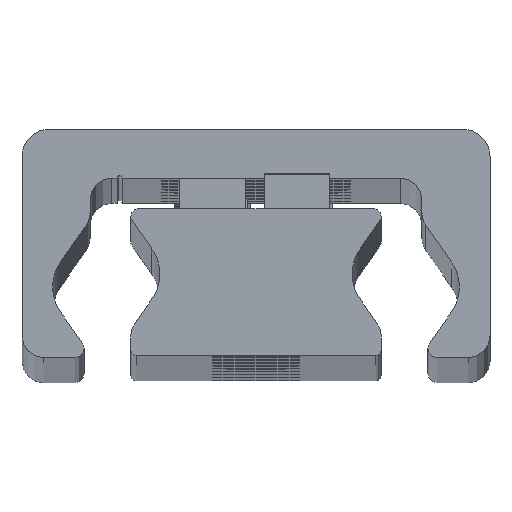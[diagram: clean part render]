
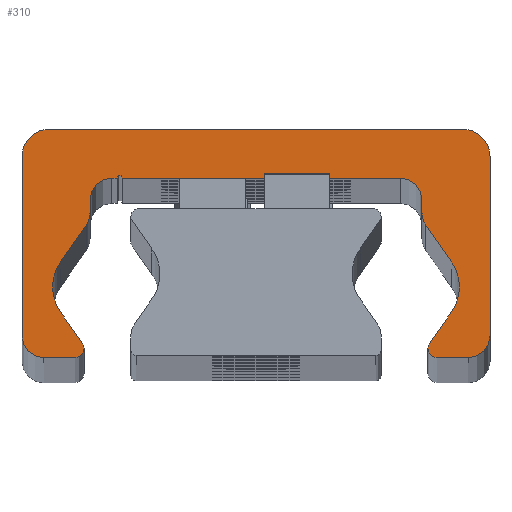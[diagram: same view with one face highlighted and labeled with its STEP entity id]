
A CAD part, top view. The second image highlights one B-rep face of the part: STEP entity #310.
In plain terms, the highlighted planar face has unit normal (0, 0, 1).
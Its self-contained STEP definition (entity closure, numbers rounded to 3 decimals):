
#310=ADVANCED_FACE('',(#876),#877,.T.);
#876=FACE_OUTER_BOUND('',#1443,.T.);
#877=PLANE('',#1444);
#1443=EDGE_LOOP('',(#3346,#3347,#3348,#3349,#3350,#3351,#3352,#3353,#3354,#3355,#3356,#3357,#3358,#3359,#3360,#3361,#3362,#3363,#3364,#3365,#3366,#3367,#3368,#3369,#3370,#3371,#3372,#3373,#3374,#3375));
#1444=AXIS2_PLACEMENT_3D('',#3376,#3377,#3378);
#3346=ORIENTED_EDGE('',*,*,#3749,.F.);
#3347=ORIENTED_EDGE('',*,*,#4022,.F.);
#3348=ORIENTED_EDGE('',*,*,#3735,.F.);
#3349=ORIENTED_EDGE('',*,*,#4021,.F.);
#3350=ORIENTED_EDGE('',*,*,#4017,.F.);
#3351=ORIENTED_EDGE('',*,*,#4014,.F.);
#3352=ORIENTED_EDGE('',*,*,#4011,.F.);
#3353=ORIENTED_EDGE('',*,*,#4008,.F.);
#3354=ORIENTED_EDGE('',*,*,#4005,.F.);
#3355=ORIENTED_EDGE('',*,*,#4002,.F.);
#3356=ORIENTED_EDGE('',*,*,#3999,.F.);
#3357=ORIENTED_EDGE('',*,*,#3996,.F.);
#3358=ORIENTED_EDGE('',*,*,#3993,.F.);
#3359=ORIENTED_EDGE('',*,*,#3990,.F.);
#3360=ORIENTED_EDGE('',*,*,#3741,.F.);
#3361=ORIENTED_EDGE('',*,*,#3988,.F.);
#3362=ORIENTED_EDGE('',*,*,#3743,.F.);
#3363=ORIENTED_EDGE('',*,*,#3987,.F.);
#3364=ORIENTED_EDGE('',*,*,#3983,.F.);
#3365=ORIENTED_EDGE('',*,*,#3980,.F.);
#3366=ORIENTED_EDGE('',*,*,#3977,.F.);
#3367=ORIENTED_EDGE('',*,*,#3974,.F.);
#3368=ORIENTED_EDGE('',*,*,#3971,.F.);
#3369=ORIENTED_EDGE('',*,*,#3968,.F.);
#3370=ORIENTED_EDGE('',*,*,#3965,.F.);
#3371=ORIENTED_EDGE('',*,*,#3962,.F.);
#3372=ORIENTED_EDGE('',*,*,#3959,.F.);
#3373=ORIENTED_EDGE('',*,*,#3956,.F.);
#3374=ORIENTED_EDGE('',*,*,#3953,.F.);
#3375=ORIENTED_EDGE('',*,*,#3950,.F.);
#3376=CARTESIAN_POINT('',(-0.023,14.187,642.0));
#3377=DIRECTION('',(0.0,0.0,1.0));
#3378=DIRECTION('',(1.0,0.0,0.0));
#3735=EDGE_CURVE('',#4538,#4541,#4542,.T.);
#3741=EDGE_CURVE('',#4551,#4547,#4553,.T.);
#3743=EDGE_CURVE('',#4554,#4557,#4558,.T.);
#3749=EDGE_CURVE('',#4567,#4563,#4569,.T.);
#3950=EDGE_CURVE('',#4563,#4892,#4893,.T.);
#3953=EDGE_CURVE('',#4892,#4897,#4898,.T.);
#3956=EDGE_CURVE('',#4897,#4902,#4903,.T.);
#3959=EDGE_CURVE('',#4902,#4907,#4908,.T.);
#3962=EDGE_CURVE('',#4907,#4912,#4913,.T.);
#3965=EDGE_CURVE('',#4912,#4917,#4918,.T.);
#3968=EDGE_CURVE('',#4917,#4922,#4923,.T.);
#3971=EDGE_CURVE('',#4922,#4927,#4928,.T.);
#3974=EDGE_CURVE('',#4927,#4932,#4933,.T.);
#3977=EDGE_CURVE('',#4932,#4937,#4938,.T.);
#3980=EDGE_CURVE('',#4937,#4942,#4943,.T.);
#3983=EDGE_CURVE('',#4942,#4947,#4948,.T.);
#3987=EDGE_CURVE('',#4947,#4554,#4953,.T.);
#3988=EDGE_CURVE('',#4557,#4551,#4954,.T.);
#3990=EDGE_CURVE('',#4547,#4956,#4957,.T.);
#3993=EDGE_CURVE('',#4956,#4961,#4962,.T.);
#3996=EDGE_CURVE('',#4961,#4966,#4967,.T.);
#3999=EDGE_CURVE('',#4966,#4971,#4972,.T.);
#4002=EDGE_CURVE('',#4971,#4976,#4977,.T.);
#4005=EDGE_CURVE('',#4976,#4981,#4982,.T.);
#4008=EDGE_CURVE('',#4981,#4986,#4987,.T.);
#4011=EDGE_CURVE('',#4986,#4991,#4992,.T.);
#4014=EDGE_CURVE('',#4991,#4996,#4997,.T.);
#4017=EDGE_CURVE('',#4996,#5001,#5002,.T.);
#4021=EDGE_CURVE('',#5001,#4538,#5007,.T.);
#4022=EDGE_CURVE('',#4541,#4567,#5008,.T.);
#4538=VERTEX_POINT('',#5686);
#4541=VERTEX_POINT('',#5690);
#4542=CIRCLE('',#5691,0.85);
#4547=VERTEX_POINT('',#5697);
#4551=VERTEX_POINT('',#5702);
#4553=CIRCLE('',#5705,0.85);
#4554=VERTEX_POINT('',#5706);
#4557=VERTEX_POINT('',#5710);
#4558=CIRCLE('',#5711,4.);
#4563=VERTEX_POINT('',#5717);
#4567=VERTEX_POINT('',#5722);
#4569=CIRCLE('',#5725,4.);
#4892=VERTEX_POINT('',#6142);
#4893=CIRCLE('',#6143,4.);
#4897=VERTEX_POINT('',#6148);
#4898=LINE('',#6149,#6150);
#4902=VERTEX_POINT('',#6156);
#4903=CIRCLE('',#6157,2.);
#4907=VERTEX_POINT('',#6162);
#4908=LINE('',#6163,#6164);
#4912=VERTEX_POINT('',#6170);
#4913=CIRCLE('',#6171,2.0);
#4917=VERTEX_POINT('',#6176);
#4918=LINE('',#6177,#6178);
#4922=VERTEX_POINT('',#6184);
#4923=CIRCLE('',#6185,0.25);
#4927=VERTEX_POINT('',#6190);
#4928=LINE('',#6191,#6192);
#4932=VERTEX_POINT('',#6198);
#4933=CIRCLE('',#6199,2.0);
#4937=VERTEX_POINT('',#6204);
#4938=LINE('',#6205,#6206);
#4942=VERTEX_POINT('',#6212);
#4943=CIRCLE('',#6213,2.0);
#4947=VERTEX_POINT('',#6218);
#4948=LINE('',#6219,#6220);
#4953=CIRCLE('',#6227,4.);
#4954=LINE('',#6228,#6229);
#4956=VERTEX_POINT('',#6232);
#4957=CIRCLE('',#6233,0.85);
#4961=VERTEX_POINT('',#6238);
#4962=LINE('',#6239,#6240);
#4966=VERTEX_POINT('',#6246);
#4967=CIRCLE('',#6247,2.);
#4971=VERTEX_POINT('',#6252);
#4972=LINE('',#6253,#6254);
#4976=VERTEX_POINT('',#6260);
#4977=CIRCLE('',#6261,2.5);
#4981=VERTEX_POINT('',#6266);
#4982=LINE('',#6267,#6268);
#4986=VERTEX_POINT('',#6274);
#4987=CIRCLE('',#6275,2.5);
#4991=VERTEX_POINT('',#6280);
#4992=LINE('',#6281,#6282);
#4996=VERTEX_POINT('',#6288);
#4997=CIRCLE('',#6289,2.);
#5001=VERTEX_POINT('',#6294);
#5002=LINE('',#6295,#6296);
#5007=CIRCLE('',#6303,0.85);
#5008=LINE('',#6304,#6305);
#5686=CARTESIAN_POINT('',(15.8,1.859,642.0));
#5690=CARTESIAN_POINT('',(15.922,2.298,642.0));
#5691=AXIS2_PLACEMENT_3D('',#6951,#6952,#6953);
#5697=CARTESIAN_POINT('',(-15.8,1.859,642.0));
#5702=CARTESIAN_POINT('',(-15.922,2.298,642.0));
#5705=AXIS2_PLACEMENT_3D('',#6963,#6964,#6965);
#5706=CARTESIAN_POINT('',(-18.688,7.509,642.0));
#5710=CARTESIAN_POINT('',(-17.964,5.214,642.0));
#5711=AXIS2_PLACEMENT_3D('',#6967,#6968,#6969);
#5717=CARTESIAN_POINT('',(18.688,7.509,642.0));
#5722=CARTESIAN_POINT('',(17.964,5.214,642.0));
#5725=AXIS2_PLACEMENT_3D('',#6979,#6980,#6981);
#6142=CARTESIAN_POINT('',(17.964,9.803,642.0));
#6143=AXIS2_PLACEMENT_3D('',#7394,#7395,#7396);
#6148=CARTESIAN_POINT('',(15.612,13.163,642.0));
#6149=CARTESIAN_POINT('',(15.612,13.163,642.0));
#6150=VECTOR('',#7401,1.0);
#6156=CARTESIAN_POINT('',(15.25,14.31,642.0));
#6157=AXIS2_PLACEMENT_3D('',#7404,#7405,#7406);
#6162=CARTESIAN_POINT('',(15.25,15.509,642.0));
#6163=CARTESIAN_POINT('',(15.25,15.509,642.0));
#6164=VECTOR('',#7411,1.0);
#6170=CARTESIAN_POINT('',(13.25,17.509,642.0));
#6171=AXIS2_PLACEMENT_3D('',#7414,#7415,#7416);
#6176=CARTESIAN_POINT('',(-12.25,17.509,642.0));
#6177=CARTESIAN_POINT('',(-12.25,17.509,642.0));
#6178=VECTOR('',#7421,1.0);
#6184=CARTESIAN_POINT('',(-12.75,17.509,642.0));
#6185=AXIS2_PLACEMENT_3D('',#7424,#7425,#7426);
#6190=CARTESIAN_POINT('',(-13.25,17.509,642.0));
#6191=CARTESIAN_POINT('',(-13.25,17.509,642.0));
#6192=VECTOR('',#7431,1.0);
#6198=CARTESIAN_POINT('',(-15.25,15.509,642.0));
#6199=AXIS2_PLACEMENT_3D('',#7434,#7435,#7436);
#6204=CARTESIAN_POINT('',(-15.25,14.31,642.0));
#6205=CARTESIAN_POINT('',(-15.25,14.31,642.0));
#6206=VECTOR('',#7441,1.0);
#6212=CARTESIAN_POINT('',(-15.612,13.163,642.0));
#6213=AXIS2_PLACEMENT_3D('',#7444,#7445,#7446);
#6218=CARTESIAN_POINT('',(-17.964,9.803,642.0));
#6219=CARTESIAN_POINT('',(-17.964,9.803,642.0));
#6220=VECTOR('',#7451,1.);
#6227=AXIS2_PLACEMENT_3D('',#7457,#7458,#7459);
#6228=CARTESIAN_POINT('',(-15.922,2.298,642.0));
#6229=VECTOR('',#7460,1.0);
#6232=CARTESIAN_POINT('',(-16.65,1.009,642.0));
#6233=AXIS2_PLACEMENT_3D('',#7462,#7463,#7464);
#6238=CARTESIAN_POINT('',(-19.5,1.009,642.0));
#6239=CARTESIAN_POINT('',(-19.5,1.009,642.0));
#6240=VECTOR('',#7469,1.0);
#6246=CARTESIAN_POINT('',(-21.5,3.009,642.0));
#6247=AXIS2_PLACEMENT_3D('',#7472,#7473,#7474);
#6252=CARTESIAN_POINT('',(-21.5,19.509,642.0));
#6253=CARTESIAN_POINT('',(-21.5,19.509,642.0));
#6254=VECTOR('',#7479,1.0);
#6260=CARTESIAN_POINT('',(-19.0,22.009,642.0));
#6261=AXIS2_PLACEMENT_3D('',#7482,#7483,#7484);
#6266=CARTESIAN_POINT('',(19.0,22.009,642.0));
#6267=CARTESIAN_POINT('',(19.0,22.009,642.0));
#6268=VECTOR('',#7489,1.0);
#6274=CARTESIAN_POINT('',(21.5,19.509,642.0));
#6275=AXIS2_PLACEMENT_3D('',#7492,#7493,#7494);
#6280=CARTESIAN_POINT('',(21.5,3.009,642.0));
#6281=CARTESIAN_POINT('',(21.5,3.009,642.0));
#6282=VECTOR('',#7499,1.0);
#6288=CARTESIAN_POINT('',(19.5,1.009,642.0));
#6289=AXIS2_PLACEMENT_3D('',#7502,#7503,#7504);
#6294=CARTESIAN_POINT('',(16.65,1.009,642.0));
#6295=CARTESIAN_POINT('',(16.65,1.009,642.0));
#6296=VECTOR('',#7509,1.0);
#6303=AXIS2_PLACEMENT_3D('',#7515,#7516,#7517);
#6304=CARTESIAN_POINT('',(17.964,5.214,642.0));
#6305=VECTOR('',#7518,1.0);
#6951=CARTESIAN_POINT('',(16.65,1.859,642.0));
#6952=DIRECTION('',(0.0,0.0,-1.0));
#6953=DIRECTION('',(1.0,0.0,0.0));
#6963=CARTESIAN_POINT('',(-16.65,1.859,642.0));
#6964=DIRECTION('',(0.0,0.0,-1.0));
#6965=DIRECTION('',(1.0,0.0,0.0));
#6967=CARTESIAN_POINT('',(-14.688,7.509,642.0));
#6968=DIRECTION('',(0.0,0.0,1.0));
#6969=DIRECTION('',(1.0,0.0,0.0));
#6979=CARTESIAN_POINT('',(14.688,7.509,642.0));
#6980=DIRECTION('',(0.0,0.0,1.0));
#6981=DIRECTION('',(1.0,0.0,0.0));
#7394=CARTESIAN_POINT('',(14.688,7.509,642.0));
#7395=DIRECTION('',(0.0,0.0,1.0));
#7396=DIRECTION('',(1.0,0.0,0.0));
#7401=DIRECTION('',(-0.574,0.819,0.0));
#7404=CARTESIAN_POINT('',(17.25,14.31,642.0));
#7405=DIRECTION('',(0.0,0.0,-1.0));
#7406=DIRECTION('',(1.0,0.0,0.0));
#7411=DIRECTION('',(0.0,1.0,0.0));
#7414=CARTESIAN_POINT('',(13.25,15.509,642.0));
#7415=DIRECTION('',(0.0,0.0,1.0));
#7416=DIRECTION('',(1.0,0.0,0.0));
#7421=DIRECTION('',(-1.0,-0.0,-0.0));
#7424=CARTESIAN_POINT('',(-12.5,17.509,642.0));
#7425=DIRECTION('',(0.0,0.0,1.0));
#7426=DIRECTION('',(1.0,0.0,0.0));
#7431=DIRECTION('',(-1.0,-0.0,-0.0));
#7434=CARTESIAN_POINT('',(-13.25,15.509,642.0));
#7435=DIRECTION('',(0.0,0.0,1.0));
#7436=DIRECTION('',(1.0,0.0,0.0));
#7441=DIRECTION('',(-0.0,-1.0,-0.0));
#7444=CARTESIAN_POINT('',(-17.25,14.31,642.0));
#7445=DIRECTION('',(0.0,0.0,-1.0));
#7446=DIRECTION('',(1.0,0.0,0.0));
#7451=DIRECTION('',(-0.574,-0.819,-0.0));
#7457=CARTESIAN_POINT('',(-14.688,7.509,642.0));
#7458=DIRECTION('',(0.0,0.0,1.0));
#7459=DIRECTION('',(1.0,0.0,0.0));
#7460=DIRECTION('',(0.574,-0.819,0.0));
#7462=CARTESIAN_POINT('',(-16.65,1.859,642.0));
#7463=DIRECTION('',(0.0,0.0,-1.0));
#7464=DIRECTION('',(1.0,0.0,0.0));
#7469=DIRECTION('',(-1.0,-0.0,-0.0));
#7472=CARTESIAN_POINT('',(-19.5,3.009,642.0));
#7473=DIRECTION('',(0.0,0.0,-1.0));
#7474=DIRECTION('',(1.0,0.0,0.0));
#7479=DIRECTION('',(0.0,1.0,0.0));
#7482=CARTESIAN_POINT('',(-19.0,19.509,642.0));
#7483=DIRECTION('',(0.0,0.0,-1.0));
#7484=DIRECTION('',(1.0,0.0,0.0));
#7489=DIRECTION('',(1.0,0.0,0.0));
#7492=CARTESIAN_POINT('',(19.0,19.509,642.0));
#7493=DIRECTION('',(0.0,0.0,-1.0));
#7494=DIRECTION('',(1.0,0.0,0.0));
#7499=DIRECTION('',(-0.0,-1.0,-0.0));
#7502=CARTESIAN_POINT('',(19.5,3.009,642.0));
#7503=DIRECTION('',(0.0,0.0,-1.0));
#7504=DIRECTION('',(1.0,0.0,0.0));
#7509=DIRECTION('',(-1.0,-0.0,-0.0));
#7515=CARTESIAN_POINT('',(16.65,1.859,642.0));
#7516=DIRECTION('',(0.0,0.0,-1.0));
#7517=DIRECTION('',(1.0,0.0,0.0));
#7518=DIRECTION('',(0.574,0.819,0.0));
